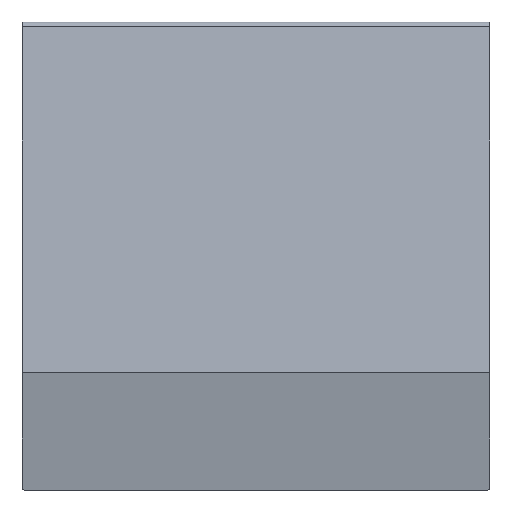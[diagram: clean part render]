
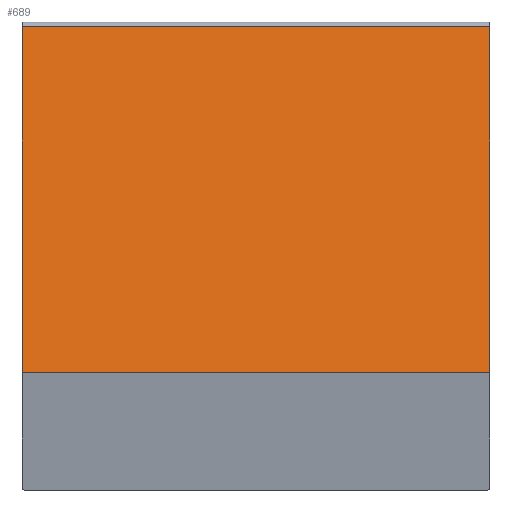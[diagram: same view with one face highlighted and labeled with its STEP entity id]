
A CAD part, top view. The second image highlights one B-rep face of the part: STEP entity #689.
In plain terms, the highlighted planar face has unit normal (0, 0.174, 0.985).
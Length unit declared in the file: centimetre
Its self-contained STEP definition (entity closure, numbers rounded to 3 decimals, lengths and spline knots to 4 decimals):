
#57=FACE_OUTER_BOUND('',#102,.T.);
#102=EDGE_LOOP('',(#521,#522,#523,#524,#525,#526));
#149=LINE('',#1081,#213);
#158=LINE('',#1105,#222);
#159=LINE('',#1108,#223);
#160=LINE('',#1112,#224);
#213=VECTOR('',#847,23.8);
#222=VECTOR('',#872,17.9);
#223=VECTOR('',#875,24.);
#224=VECTOR('',#882,17.9);
#264=CIRCLE('',#732,0.1);
#268=CIRCLE('',#741,0.1);
#310=VERTEX_POINT('',#1068);
#311=VERTEX_POINT('',#1069);
#315=VERTEX_POINT('',#1079);
#321=VERTEX_POINT('',#1099);
#322=VERTEX_POINT('',#1103);
#323=VERTEX_POINT('',#1107);
#372=EDGE_CURVE('',#310,#311,#264,.T.);
#378=EDGE_CURVE('',#315,#310,#149,.T.);
#387=EDGE_CURVE('',#321,#315,#268,.T.);
#390=EDGE_CURVE('',#322,#321,#158,.T.);
#391=EDGE_CURVE('',#322,#323,#159,.T.);
#394=EDGE_CURVE('',#311,#323,#160,.T.);
#521=ORIENTED_EDGE('',*,*,#372,.F.);
#522=ORIENTED_EDGE('',*,*,#378,.F.);
#523=ORIENTED_EDGE('',*,*,#387,.F.);
#524=ORIENTED_EDGE('',*,*,#390,.F.);
#525=ORIENTED_EDGE('',*,*,#391,.T.);
#526=ORIENTED_EDGE('',*,*,#394,.F.);
#662=PLANE('',#751);
#689=ADVANCED_FACE('',(#57),#662,.F.);
#732=AXIS2_PLACEMENT_3D('',#1070,#837,#838);
#741=AXIS2_PLACEMENT_3D('',#1100,#866,#867);
#751=AXIS2_PLACEMENT_3D('',#1120,#893,#894);
#837=DIRECTION('center_axis',(0.,-0.174,-0.985));
#838=DIRECTION('ref_axis',(-0.707,-0.696,0.123));
#847=DIRECTION('',(-1.,0.,0.));
#866=DIRECTION('center_axis',(0.,-0.174,-0.985));
#867=DIRECTION('ref_axis',(0.707,-0.696,0.123));
#872=DIRECTION('',(0.,-0.985,0.174));
#875=DIRECTION('',(-1.,0.,0.));
#882=DIRECTION('',(0.,0.985,-0.174));
#893=DIRECTION('center_axis',(0.,-0.174,-0.985));
#894=DIRECTION('ref_axis',(1.,0.,0.));
#1068=CARTESIAN_POINT('',(-11.9,-8.7816,9.331));
#1069=CARTESIAN_POINT('',(-12.,-8.6831,9.3137));
#1070=CARTESIAN_POINT('Origin',(-11.9,-8.6831,9.3137));
#1079=CARTESIAN_POINT('',(11.9,-8.7816,9.331));
#1081=CARTESIAN_POINT('',(12.,-8.7816,9.331));
#1099=CARTESIAN_POINT('',(12.,-8.6831,9.3137));
#1100=CARTESIAN_POINT('Origin',(11.9,-8.6831,9.3137));
#1103=CARTESIAN_POINT('',(12.,8.945,6.2053));
#1105=CARTESIAN_POINT('',(12.,8.945,6.2053));
#1107=CARTESIAN_POINT('',(-12.,8.945,6.2053));
#1108=CARTESIAN_POINT('',(0.,8.945,6.2053));
#1112=CARTESIAN_POINT('',(-12.,9.6133,6.0875));
#1120=CARTESIAN_POINT('Origin',(0.,0.3787,7.7158));
